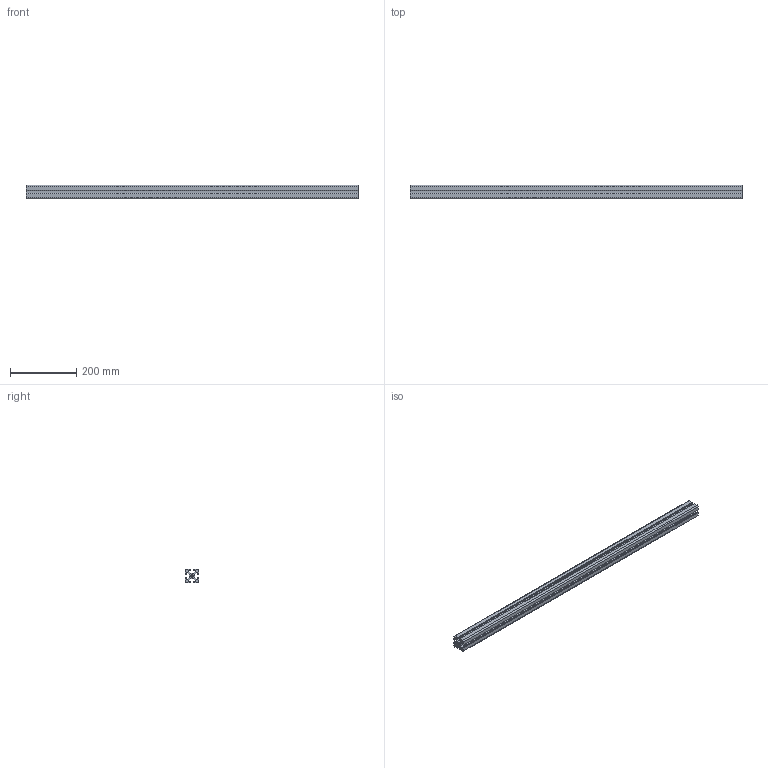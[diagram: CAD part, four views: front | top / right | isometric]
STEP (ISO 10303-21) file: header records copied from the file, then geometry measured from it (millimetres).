
FILE_DESCRIPTION (( 'STEP AP214' ), '1' );
FILE_NAME ('10394_PRO_40x40.STEP', '2016-03-01T07:48:02', ( '' ), ( '' ), 'SwSTEP 2.0', 'SolidWorks 2015', '' );
FILE_SCHEMA (( 'AUTOMOTIVE_DESIGN' ));
Length unit declared in the file: millimetre
Products named in the file (1): 10394_PRO_40x40
Bounding box: 1000 x 40 x 40 mm (x, y, z)
Volume: 939501.2 mm3; surface area: 330297.4 mm2
Topology: 1 solids, 1 shells, 70 faces, 204 edges, 136 vertices
Faces by surface type: plane 38, cylinder 32
Entity records: 2370 total; most frequent: CARTESIAN_POINT 411, DIRECTION 410, ORIENTED_EDGE 408, EDGE_CURVE 204, LINE 140, VECTOR 140, VERTEX_POINT 136, AXIS2_PLACEMENT_3D 135
